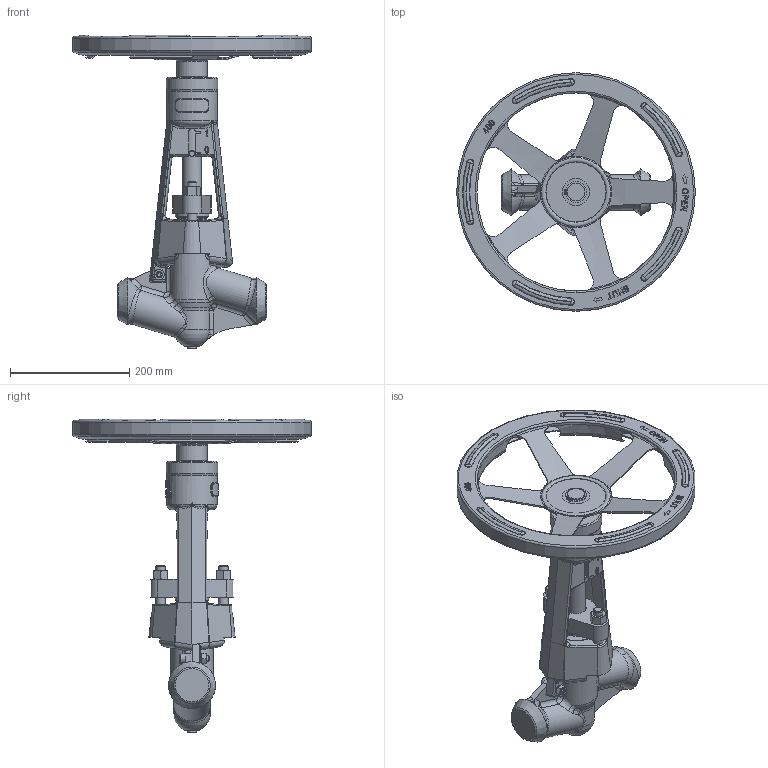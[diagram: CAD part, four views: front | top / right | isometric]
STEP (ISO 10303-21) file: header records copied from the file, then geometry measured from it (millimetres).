
FILE_DESCRIPTION(/* description */ (''),/* implementation_level */ '2;1');
FILE_NAME(/* name */ 'UV526_DN50_65_RK.stp',/* time_stamp */ '2016-06-08T13:40:33+02:00',/* author */ (''),/* organization */ (''),/* preprocessor_version */ 'ST-DEVELOPER v15',/* originating_system */ 'SIEMENS PLM Software NX 8.5',/* authorisation */ '');
FILE_SCHEMA (('AP203_CONFIGURATION_CONTROLLED_3D_DESIGN_OF_MECHANICAL_PARTS_AND_ASSEMBLIES_MIM_LF { 1 0 10303 403 2 1 2}'));
Length unit declared in the file: millimetre
Products named in the file (1): ploc2F4C05CFg3vi
Bounding box: 400 x 400 x 526 mm (x, y, z)
Volume: 3378336.6 mm3; surface area: 564946.4 mm2
Topology: 1 solids, 2 shells, 913 faces, 2333 edges, 1467 vertices
Faces by surface type: plane 314, cylinder 193, bspline 146, cone 90, torus 86, extrusion 75, sphere 9
Full cylindrical faces by diameter (mm): 2 x2, 10 x4, 10.2 x1, 11 x1, 14 x1, 14.376 x2, 15 x1, 15.2 x1, 16 x4, 17 x4, 28.6 x1, 30 x2, 32 x1, 34 x1, 46 x2, 46.2 x1, 48 x1, 51 x1, 53 x1, 56 x1, 72 x1, 74 x1, 84 x1, 86 x1, 332 x1, 337 x1, 395 x1, 400 x1
Entity records: 34414 total; most frequent: CARTESIAN_POINT 14256, ORIENTED_EDGE 4408, DIRECTION 3659, EDGE_CURVE 2204, AXIS2_PLACEMENT_3D 1441, VERTEX_POINT 1436, EDGE_LOOP 1088, ADVANCED_FACE 913
